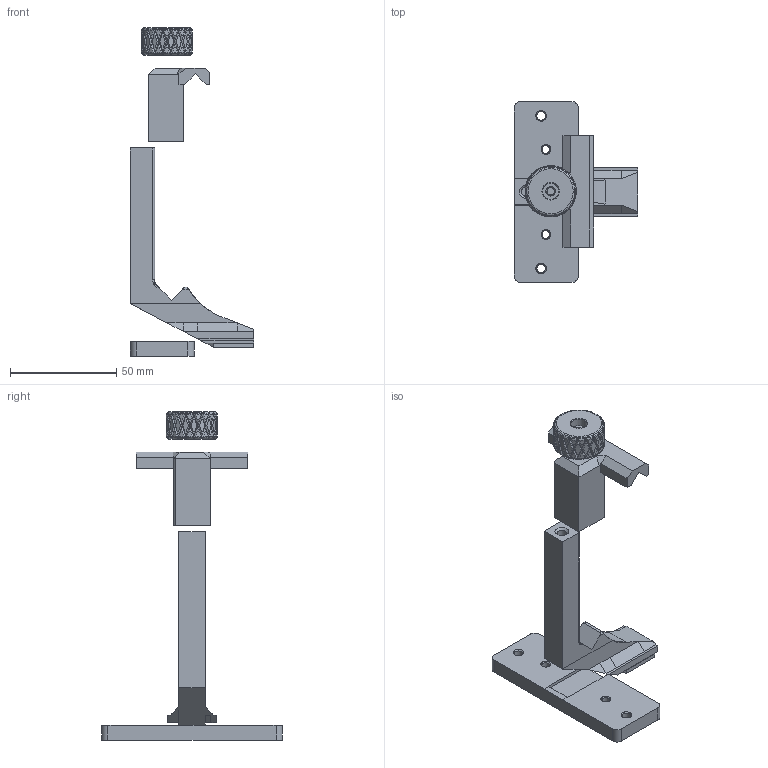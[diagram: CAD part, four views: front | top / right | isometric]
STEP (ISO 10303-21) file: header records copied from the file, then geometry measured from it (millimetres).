
FILE_DESCRIPTION(/* description */ (''),/* implementation_level */ '2;1');
FILE_NAME(/* name */ 'C:/Users/mcjor/3D Objects/6x17 Camera/6x12/no screw/phone holder.stp',/* time_stamp */ '2023-02-06T15:34:44+01:00',/* author */ (''),/* organization */ (''),/* preprocessor_version */ 'ST-DEVELOPER v15.2',/* originating_system */ 'Autodesk Translator Framework v2.0.0.5431',/* authorisation */ '');
FILE_SCHEMA (('AUTOMOTIVE_DESIGN { 1 0 10303 214 3 1 1 }'));
Length unit declared in the file: centimetre
Products named in the file (1): phone holder
Bounding box: 58 x 85 x 154.54 mm (x, y, z)
Volume: 51461 mm3; surface area: 23916.8 mm2
Topology: 4 solids, 4 shells, 597 faces, 1445 edges, 862 vertices
Faces by surface type: plane 413, torus 81, cylinder 81, cone 14, bspline 8
Full cylindrical faces by diameter (mm): 3.5 x1, 3.6 x3, 4.039 x2, 4.6 x2, 7.7 x1
Entity records: 17579 total; most frequent: CARTESIAN_POINT 4561, ORIENTED_EDGE 2838, DIRECTION 2523, EDGE_CURVE 1419, AXIS2_PLACEMENT_3D 926, VERTEX_POINT 860, LINE 671, VECTOR 671
